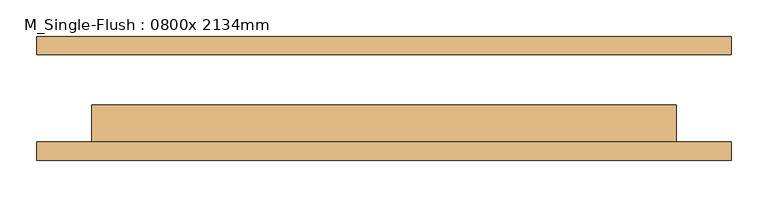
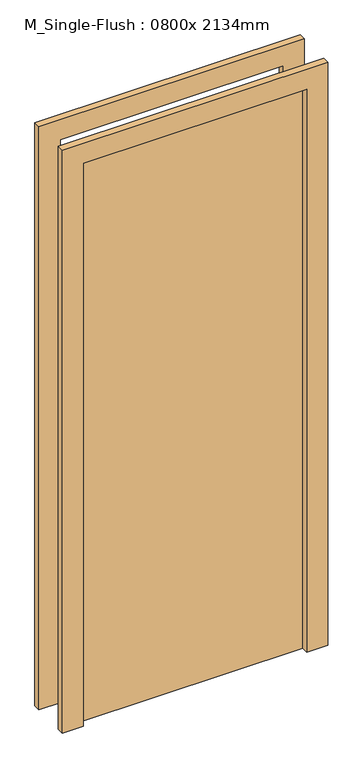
"""IFC4 building model written with IfcOpenShell, lengths in millimetres: door geometry, M_Single-Flush : 0800x 2134mm."""

from ifc_helpers import new_model, si_unit, frame, origin, origin_with_axes, place, context, project, spatial, polyline, outline, extrude, source, transform, mapped, element, save


def m_single_flush_0800x_2134mm_a76977ee(model_context):
    return source(origin(), model_context, "Body", "SweptSolid", [
        extrude(outline(polyline([(400.0, -9.0), (400.0, -60.0), (-400.0, -60.0), (-400.0, -9.0), (400.0, -9.0)])), origin_with_axes(), (0.0, 0.0, 1.0), 2134.0),
        extrude(outline(polyline([(2210.0, -476.0), (0.0, -476.0), (0.0, -400.0), (2134.0, -400.0), (2134.0, 400.0), (0.0, 400.0), (0.0, 476.0), (2210.0, 476.0), (2210.0, -476.0)])), frame((0.0, -85.0, 0.0), z_axis=(0.0, 1.0, 0.0), x_axis=(0.0, 0.0, 1.0)), (0.0, 0.0, 1.0), 25.0),
        extrude(outline(polyline([(2210.0, 476.0), (2210.0, -476.0), (0.0, -476.0), (0.0, -400.0), (2134.0, -400.0), (2134.0, 400.0), (0.0, 400.0), (0.0, 476.0), (2210.0, 476.0)])), frame((0.0, 60.0, 0.0), z_axis=(0.0, 1.0, 0.0), x_axis=(0.0, 0.0, 1.0)), (0.0, 0.0, 1.0), 25.0),
    ])


if __name__ == "__main__":
    model = new_model("IFC4")
    model_context = context("Model", 3, world=origin())
    ifc_project = project(units=[si_unit("LENGTHUNIT", "METRE", prefix="MILLI")], contexts=[model_context])
    site = spatial("IfcSite", under=ifc_project)
    building = spatial("IfcBuilding", under=site)
    placement = place(None, origin())
    m_single_flush_0800x_2134mm_shape = m_single_flush_0800x_2134mm_a76977ee(model_context)
    element("IfcDoor", 1, ObjectType="M_Single-Flush : 0800x 2134mm", at=placement, inside=building, context=model_context, shape_type="MappedRepresentation", body=[
        mapped(m_single_flush_0800x_2134mm_shape, transform((0.0, 0.0, 0.0), x_axis=(1.0, 0.0, 0.0), y_axis=(0.0, 1.0, 0.0), z_axis=(0.0, 0.0, 1.0))),
    ])
    save(model, "model.ifc")
